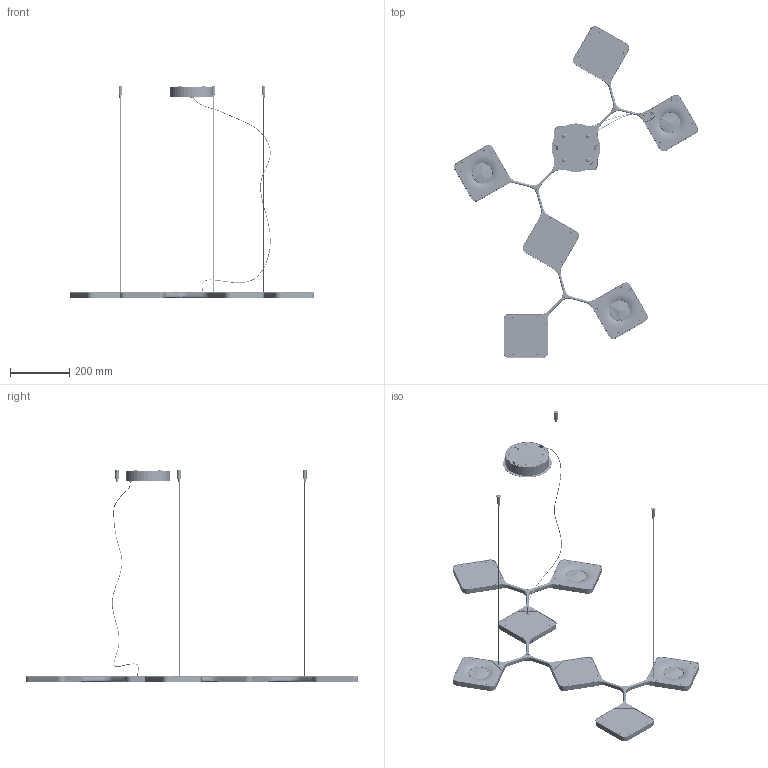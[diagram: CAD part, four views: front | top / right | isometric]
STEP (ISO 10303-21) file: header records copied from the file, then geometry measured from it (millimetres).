
FILE_DESCRIPTION(/* description */ ('Unknown'),/* implementation_level */ '2;1');
FILE_NAME(/* name */ '8526',/* time_stamp */ '2019-08-30T17:16:29+02:00',/* author */ ('Unknown'),/* organization */ ('Unknown'),/* preprocessor_version */ 'ST-DEVELOPER v16.7',/* originating_system */ 'DEX',/* authorisation */ $);
FILE_SCHEMA (('AUTOMOTIVE_DESIGN {1 0 10303 214 3 1 1}'));
Products named in the file (31): 8526_3ds; 150000115064; 150000116064; 150000149064; 150000114064; 151001059064; 151001060064; 151001162064; 061000128356; G1363+G1367; G1363-BR; G1367-3; G1367-3 (01); G1367-3 (03); G1367-3 (02); 062000159359; 151001257710; 150000113064; H1434-1; 8526_3ds_4'947_4'122_Filo 4_oa_0; 210000055013; 8526_3ds_4'947_4'122_Filo 4_oa_1; 8526_3ds_4'947_4'122_Filo 4_oa_2; 8526_3ds_4'947_4'122_Filo 4_oa_3; 210000006013; 060000171351; O2234-9; 153000193999; 153000193064_1; 153000193064_2; O1708-9
Assembly tree (96 placements, depth 4):
  8526_3ds
    150000115064  x2
    150000116064  x3
    150000149064  x3
    150000114064  x2
    151001059064
    151001060064
    151001162064  x2
    061000128356  x3
    G1363+G1367  x3
      G1363-BR
      G1367-3
        G1367-3 (01)
        G1367-3 (03)
        G1367-3 (02)
    062000159359  x3
    151001257710
    150000113064  x3
    H1434-1  x18
    210000055013  x18
    210000006013  x20
    060000171351  x3
    O2234-9
    153000193999
      153000193064_1
      153000193064_2
    O1708-9
  8526_3ds_4'947_4'122_Filo 4_oa_0
  8526_3ds_4'947_4'122_Filo 4_oa_1
  8526_3ds_4'947_4'122_Filo 4_oa_2
  8526_3ds_4'947_4'122_Filo 4_oa_3
Bounding box: 827.43 x 1124.45 x 720.5 mm (x, y, z)
Volume: 1282107.6 mm3; surface area: 1046091 mm2
Topology: 103 solids, 103 shells, 7590 faces, 18108 edges, 10753 vertices
Faces by surface type: plane 2950, cylinder 2118, bspline 1447, torus 499, cone 336, sphere 240
Full cylindrical faces by diameter (mm): 2 x18, 2.459 x85, 2.7 x7, 2.98 x20, 3 x79, 3.2 x18, 3.242 x6, 3.5 x47, 4 x3, 5 x6, 5.75 x3, 6 x27, 6.5 x1, 7 x2, 8 x6, 8.5 x1, 9 x1, 9.153 x3, 10 x3, 10.5 x2, 12 x7, 12.5 x1, 16 x3, 39 x3, 40 x3, 71 x3, 74 x3, 165 x1
Entity records: 90292 total; most frequent: CARTESIAN_POINT 26015, ORIENTED_EDGE 10442, DIRECTION 9953, EDGE_CURVE 5221, AXIS2_PLACEMENT_3D 3732, VERTEX_POINT 3381, FACE_BOUND 2838, EDGE_LOOP 2803
